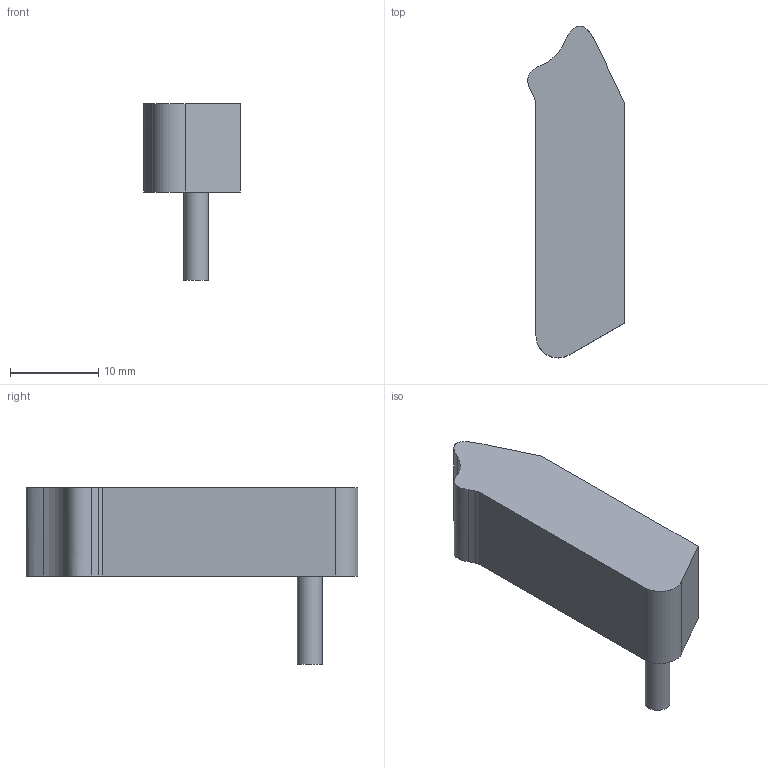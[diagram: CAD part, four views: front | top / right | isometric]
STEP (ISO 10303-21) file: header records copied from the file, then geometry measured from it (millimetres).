
FILE_DESCRIPTION(/* description */ ('STEP AP242 Edition 2','CAx-IF Rec.Pracs.---Representation and Presentation of Product Manufacturing Information (PMI)---4.0---2014-10-13','CAx-IF Rec.Pracs.---3D Tessellated Geometry---0.4---2014-09-14','2;1','CAx-IF Rec.Pracs.---User Defined Attributes---1.5---2016-08-15'),/* implementation_level */ '2;1');
FILE_NAME(/* name */ 'Draw Bot V4 - Updated Design - Left Limit Switch Cover',/* time_stamp */ '2026-04-19T16:23:58Z',/* author */ (''),/* organization */ (''),/* preprocessor_version */ 'ST-DEVELOPER v20',/* originating_system */ 'ONSHAPE BY PTC INC, 1.213',/* authorisation */ ' ');
FILE_SCHEMA (('AP242_MANAGED_MODEL_BASED_3D_ENGINEERING_MIM_LF { 1 0 10303 442 3 1 4 }'));
Length unit declared in the file: millimetre
Products named in the file (1): Left Limit Switch Cover
Bounding box: 10.94 x 37.56 x 20 mm (x, y, z)
Volume: 3381 mm3; surface area: 1608.3 mm2
Topology: 1 solids, 1 shells, 14 faces, 33 edges, 22 vertices
Faces by surface type: plane 8, cylinder 4, bspline 2
Full cylindrical faces by diameter (mm): 2.8 x1
Entity records: 438 total; most frequent: CARTESIAN_POINT 107, ORIENTED_EDGE 64, DIRECTION 58, EDGE_CURVE 32, VERTEX_POINT 22, AXIS2_PLACEMENT_3D 21, LINE 16, VECTOR 16
